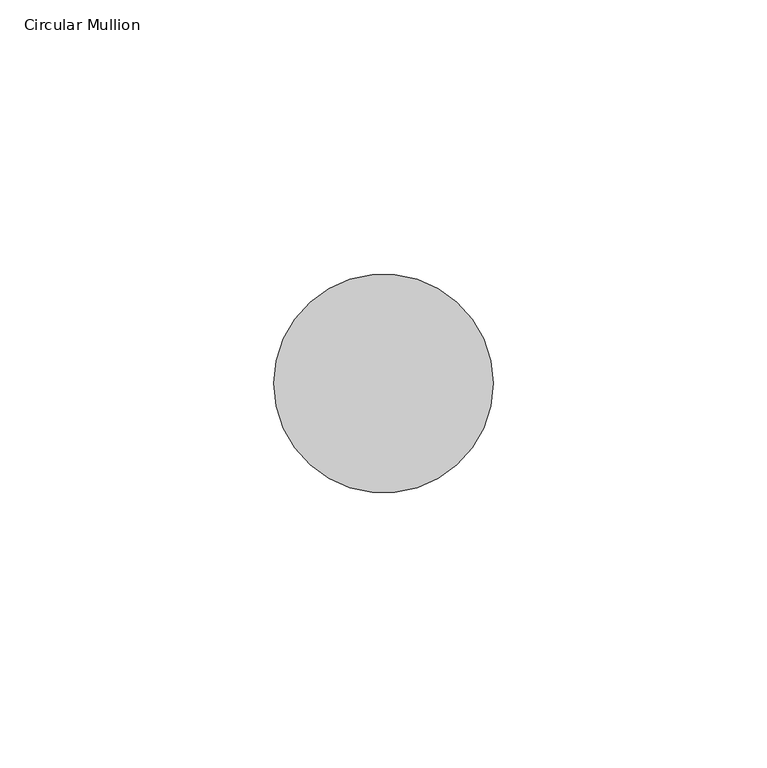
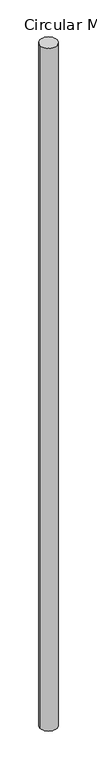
"""IFC4 building model written with IfcOpenShell, lengths in millimetres: member geometry, Circular Mullion : GRADIL 40mm."""

from ifc_helpers import new_model, si_unit, point, frame, origin, origin_2d, place, context, project, spatial, circle_curve, trimmed, segment, composite_curve, outline, extrude, source, transform, mapped, element, save


def circular_mullion_dfc24bf5(model_context):
    return source(origin(), model_context, "Body", "SweptSolid", [
        extrude(outline(composite_curve([segment(trimmed(circle_curve(origin_2d(), 20.0), [point((20.0, 0.0))], [point((-20.0, 0.0))], False, "CARTESIAN"), True, "CONTINUOUS"), segment(trimmed(circle_curve(origin_2d(), 20.0), [point((-20.0, 0.0))], [point((20.0, 0.0))], False, "CARTESIAN"), True, "CONTINUOUS")], self_intersect=False)), frame((0.0, 0.0, -1677.8380474), z_axis=(0.0, 0.0, 1.0), x_axis=(1.0, 0.0, 0.0)), (0.0, 0.0, 1.0), 1677.8380474),
    ])


if __name__ == "__main__":
    model = new_model("IFC4")
    model_context = context("Model", 3, world=origin())
    ifc_project = project(units=[si_unit("LENGTHUNIT", "METRE", prefix="MILLI")], contexts=[model_context])
    site = spatial("IfcSite", under=ifc_project)
    building = spatial("IfcBuilding", under=site)
    placement = place(None, origin())
    circular_mullion_shape = circular_mullion_dfc24bf5(model_context)
    element("IfcMember", 1, ObjectType="Circular Mullion : GRADIL 40mm", at=placement, inside=building, context=model_context, shape_type="MappedRepresentation", body=[
        mapped(circular_mullion_shape, transform((0.0, 0.0, 0.0), x_axis=(1.0, 0.0, 0.0), y_axis=(0.0, 1.0, 0.0), z_axis=(0.0, 0.0, 1.0))),
    ])
    save(model, "model.ifc")
